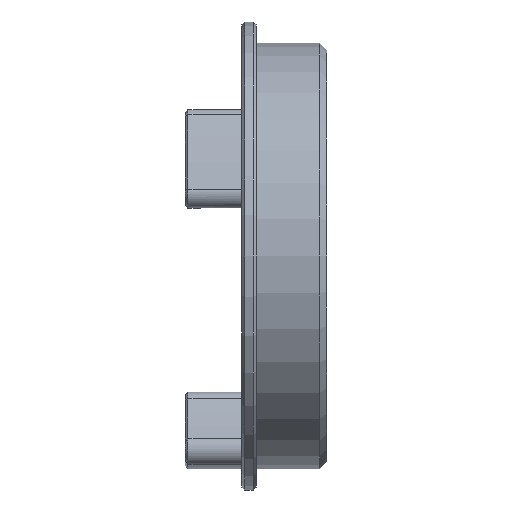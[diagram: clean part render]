
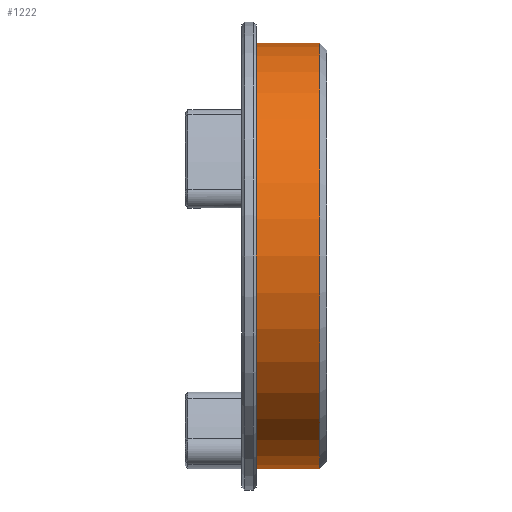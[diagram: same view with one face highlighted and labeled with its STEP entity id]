
A CAD part, left-side view. The second image highlights one B-rep face of the part: STEP entity #1222.
In plain terms, the highlighted cylindrical face has radius 15 mm (diameter 30 mm), a partial arc.
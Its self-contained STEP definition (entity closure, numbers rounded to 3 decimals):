
#138 = CARTESIAN_POINT ( 'NONE',  ( 0., 5., 0. ) ) ;
#297 = FACE_OUTER_BOUND ( 'NONE', #1785, .T. ) ;
#404 = DIRECTION ( 'NONE',  ( 0., 0., 1. ) ) ;
#462 = VECTOR ( 'NONE', #2438, 1000. ) ;
#559 = CARTESIAN_POINT ( 'NONE',  ( 0., 5., -15. ) ) ;
#573 = DIRECTION ( 'NONE',  ( 0., -1., 0. ) ) ;
#631 = CIRCLE ( 'NONE', #2937, 15. ) ;
#667 = DIRECTION ( 'NONE',  ( 0., 0., 1. ) ) ;
#816 = VECTOR ( 'NONE', #573, 1000. ) ;
#830 = LINE ( 'NONE', #1111, #462 ) ;
#896 = ORIENTED_EDGE ( 'NONE', *, *, #1773, .F. ) ;
#910 = CIRCLE ( 'NONE', #2830, 15. ) ;
#925 = VERTEX_POINT ( 'NONE', #2861 ) ;
#1007 = VERTEX_POINT ( 'NONE', #2146 ) ;
#1026 = EDGE_CURVE ( 'NONE', #1783, #925, #830, .T. ) ;
#1111 = CARTESIAN_POINT ( 'NONE',  ( 0., 5., 15. ) ) ;
#1222 = ADVANCED_FACE ( 'NONE', ( #297 ), #2185, .T. ) ;
#1237 = ORIENTED_EDGE ( 'NONE', *, *, #1026, .F. ) ;
#1380 = LINE ( 'NONE', #559, #816 ) ;
#1418 = CARTESIAN_POINT ( 'NONE',  ( 0., 5., 0. ) ) ;
#1442 = CARTESIAN_POINT ( 'NONE',  ( 0., 5., 15. ) ) ;
#1633 = ORIENTED_EDGE ( 'NONE', *, *, #2401, .T. ) ;
#1773 = EDGE_CURVE ( 'NONE', #1007, #1783, #910, .T. ) ;
#1783 = VERTEX_POINT ( 'NONE', #1442 ) ;
#1785 = EDGE_LOOP ( 'NONE', ( #1237, #896, #2295, #1633 ) ) ;
#2146 = CARTESIAN_POINT ( 'NONE',  ( 0., 5., -15. ) ) ;
#2185 = CYLINDRICAL_SURFACE ( 'NONE', #2351, 15. ) ;
#2190 = CARTESIAN_POINT ( 'NONE',  ( 0., 0.5, 0. ) ) ;
#2209 = DIRECTION ( 'NONE',  ( 0., 1., 0. ) ) ;
#2295 = ORIENTED_EDGE ( 'NONE', *, *, #2859, .T. ) ;
#2309 = CARTESIAN_POINT ( 'NONE',  ( 0., 0.5, -15. ) ) ;
#2351 = AXIS2_PLACEMENT_3D ( 'NONE', #1418, #2986, #2666 ) ;
#2401 = EDGE_CURVE ( 'NONE', #3168, #925, #631, .T. ) ;
#2438 = DIRECTION ( 'NONE',  ( 0., -1., 0. ) ) ;
#2666 = DIRECTION ( 'NONE',  ( 0., 0., -1. ) ) ;
#2738 = DIRECTION ( 'NONE',  ( 0., 1., 0. ) ) ;
#2830 = AXIS2_PLACEMENT_3D ( 'NONE', #138, #2738, #667 ) ;
#2859 = EDGE_CURVE ( 'NONE', #1007, #3168, #1380, .T. ) ;
#2861 = CARTESIAN_POINT ( 'NONE',  ( 0., 0.5, 15. ) ) ;
#2937 = AXIS2_PLACEMENT_3D ( 'NONE', #2190, #2209, #404 ) ;
#2986 = DIRECTION ( 'NONE',  ( 0., -1., 0. ) ) ;
#3168 = VERTEX_POINT ( 'NONE', #2309 ) ;
